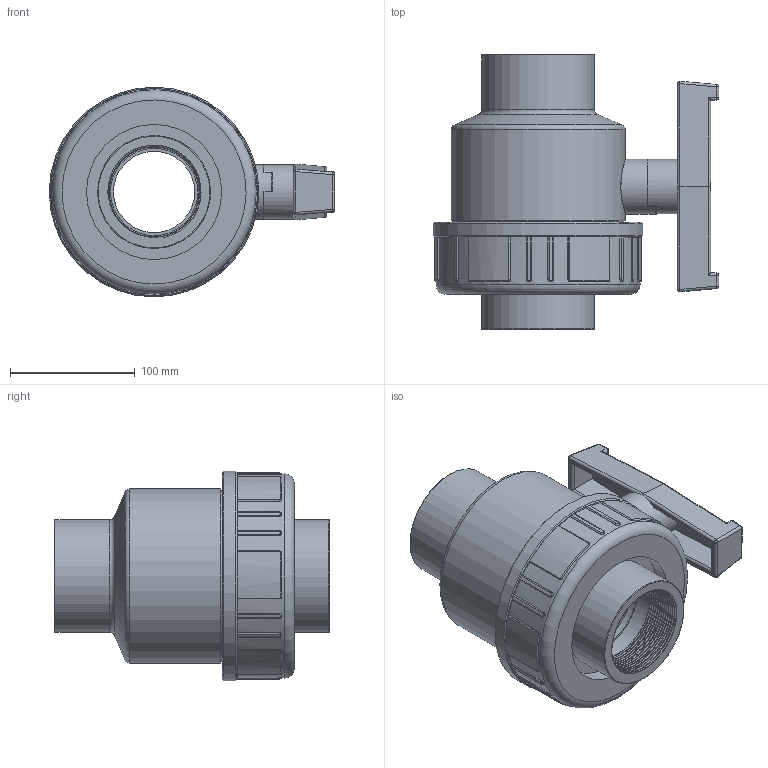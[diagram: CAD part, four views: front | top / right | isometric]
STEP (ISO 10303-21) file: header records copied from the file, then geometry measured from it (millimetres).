
FILE_DESCRIPTION(/* description */ (''),/* implementation_level */ '2;1');
FILE_NAME(/* name */ 'C:\Users\POLYPIPE\Desktop\DATASET INVENTOR\LIBRERIA EFFAST\3D_VALVOLE\3D_VALVOLE A SFERA\3D_SV\3D_BERSVE\3D_BERSVE075H.stp',/* time_stamp */ '2018-01-24T15:11:25+01:00',/* author */ ('POLYPIPE'),/* organization */ (''),/* preprocessor_version */ 'ST-DEVELOPER v16.1',/* originating_system */ 'Autodesk Inventor 2016',/* authorisation */ '');
FILE_SCHEMA (('CONFIG_CONTROL_DESIGN'));
Length unit declared in the file: centimetre
Products named in the file (1): 3D_BERSVE075H
Bounding box: 228.75 x 220.25 x 167.99 mm (x, y, z)
Volume: 586754.3 mm3; surface area: 284717.3 mm2
Topology: 2 solids, 3 shells, 320 faces, 794 edges, 488 vertices
Faces by surface type: cylinder 111, bspline 95, plane 76, torus 19, sphere 16, cone 3
Full cylindrical faces by diameter (mm): 29.8 x1, 43.5 x1, 44.1 x1, 65 x1, 70 x1, 72.226 x2, 90.5 x2, 108.2 x1, 133 x1, 137 x1, 139.5 x1, 142.5 x1, 163.5 x1, 168 x1
Entity records: 41385 total; most frequent: CARTESIAN_POINT 34000, ORIENTED_EDGE 1520, DIRECTION 1336, EDGE_CURVE 760, AXIS2_PLACEMENT_3D 527, VERTEX_POINT 479, EDGE_LOOP 357, STYLED_ITEM 322
